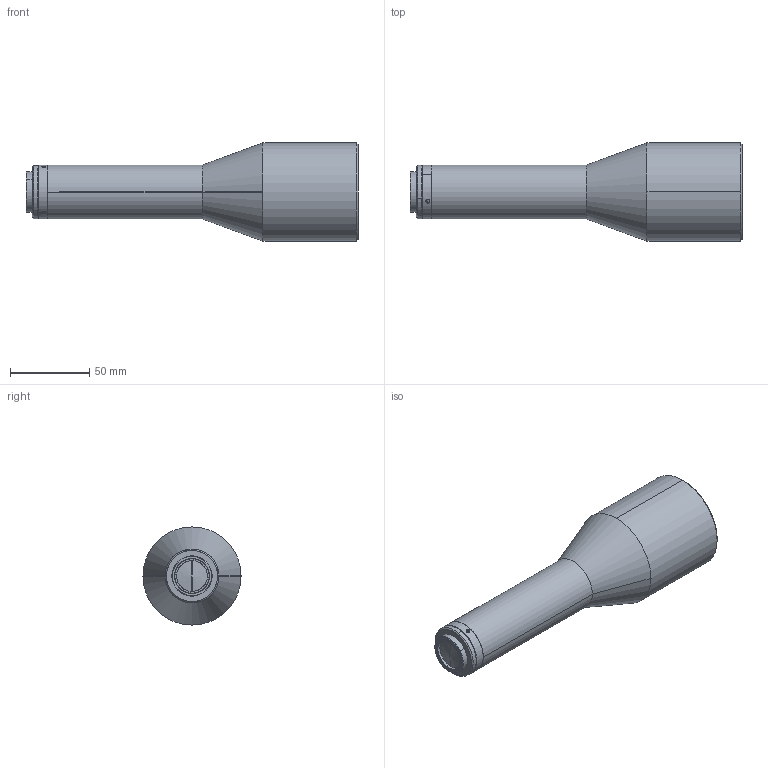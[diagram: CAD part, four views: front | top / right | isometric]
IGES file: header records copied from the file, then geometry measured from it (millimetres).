
Start section: SolidWorks IGES file using analytic representation for surfaces
Global section: file name: D:\----      产品2016.1.20\WWK\新规化\1寸\WWK05-220-110(F8OT,WWK055-220AT前组)---ok\V1 非同轴(生产)\3D\WWK05-220-110.IGS; native system: SolidWorks 2012; preprocessor: SolidWorks 2012; author: frank; date: 170721.121539; units: millimetre
Bounding box: 209.67 x 62 x 62 mm (x, y, z)
Surface area: 34068.3 mm2 (no closed solid volume)
Topology: 0 solids, 0 shells, 55 faces, 1214 edges, 1210 vertices
Faces by surface type: revolution 48, bspline 7
